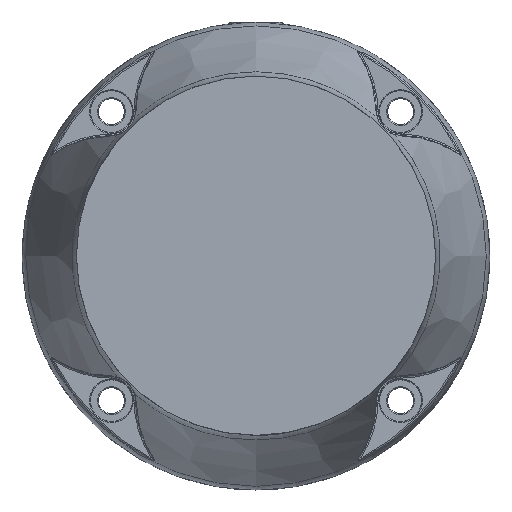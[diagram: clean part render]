
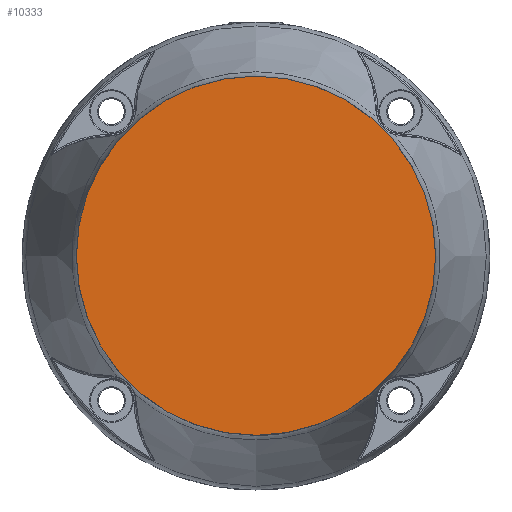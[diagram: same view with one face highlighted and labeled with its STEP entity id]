
A CAD part, top view. The second image highlights one B-rep face of the part: STEP entity #10333.
In plain terms, the highlighted planar face has unit normal (0, 0, 1) as drawn and (0, 1, 0) by its records, which use the part's own axes.
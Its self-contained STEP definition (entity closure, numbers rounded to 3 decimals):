
#769=PLANE('',#11289);
#1338=FACE_OUTER_BOUND('',#1961,.T.);
#1961=EDGE_LOOP('',(#7544,#7545));
#3802=CIRCLE('',#11290,57.993);
#3803=CIRCLE('',#11291,57.993);
#4606=VERTEX_POINT('',#20761);
#4607=VERTEX_POINT('',#20762);
#5695=EDGE_CURVE('',#4606,#4607,#3802,.T.);
#5696=EDGE_CURVE('',#4607,#4606,#3803,.T.);
#7544=ORIENTED_EDGE('',*,*,#5695,.F.);
#7545=ORIENTED_EDGE('',*,*,#5696,.F.);
#10333=ADVANCED_FACE('',(#1338),#769,.T.);
#11289=AXIS2_PLACEMENT_3D('',#20760,#13014,#13015);
#11290=AXIS2_PLACEMENT_3D('',#20763,#13016,#13017);
#11291=AXIS2_PLACEMENT_3D('',#20764,#13018,#13019);
#13014=DIRECTION('center_axis',(0.,1.,0.));
#13015=DIRECTION('ref_axis',(0.,0.,1.));
#13016=DIRECTION('center_axis',(0.,-1.,0.));
#13017=DIRECTION('ref_axis',(0.868,0.,0.497));
#13018=DIRECTION('center_axis',(0.,-1.,0.));
#13019=DIRECTION('ref_axis',(0.868,0.,0.497));
#20760=CARTESIAN_POINT('Origin',(0.,99.1,0.));
#20761=CARTESIAN_POINT('',(50.315,99.1,28.837));
#20762=CARTESIAN_POINT('',(-50.315,99.1,-28.837));
#20763=CARTESIAN_POINT('Origin',(0.,99.1,0.));
#20764=CARTESIAN_POINT('Origin',(0.,99.1,0.));
